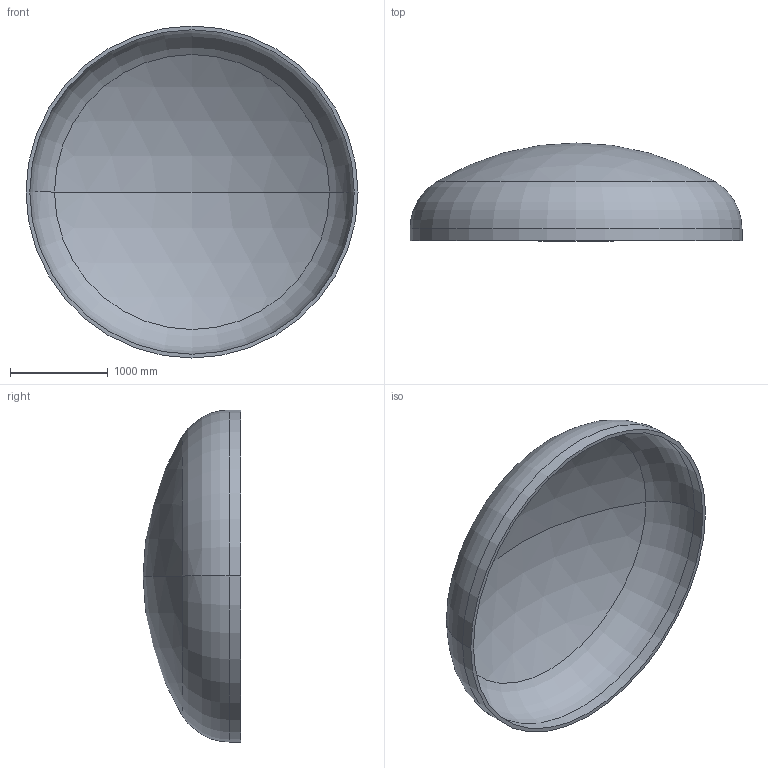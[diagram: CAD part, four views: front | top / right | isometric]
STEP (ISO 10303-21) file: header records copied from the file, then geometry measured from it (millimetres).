
FILE_DESCRIPTION (( 'STEP AP203' ), '1' );
FILE_NAME ('DIN 28013 Korbbogenform_-_Boden DIN 28013 - 3400 x 120 - I - s=39.step', '2016-07-01T19:28:29', ( '' ), ( '' ), 'SwSTEP 2.0', 'SolidWorks 2013', '' );
FILE_SCHEMA (( 'CONFIG_CONTROL_DESIGN' ));
Length unit declared in the file: millimetre
Products named in the file (1): DIN 28013 Korbbogenform_-_Boden DIN 28013 - 3400 x 120 - I - s=39
Bounding box: 3400 x 1000.83 x 3400 mm (x, y, z)
Volume: 532695149.3 mm3; surface area: 27732672.5 mm2
Topology: 1 solids, 1 shells, 13 faces, 24 edges, 14 vertices
Faces by surface type: torus 4, cylinder 4, sphere 4, plane 1
Entity records: 407 total; most frequent: DIRECTION 72, CARTESIAN_POINT 52, ORIENTED_EDGE 48, AXIS2_PLACEMENT_3D 34, EDGE_CURVE 24, CIRCLE 20, VERTEX_POINT 14, EDGE_LOOP 14
